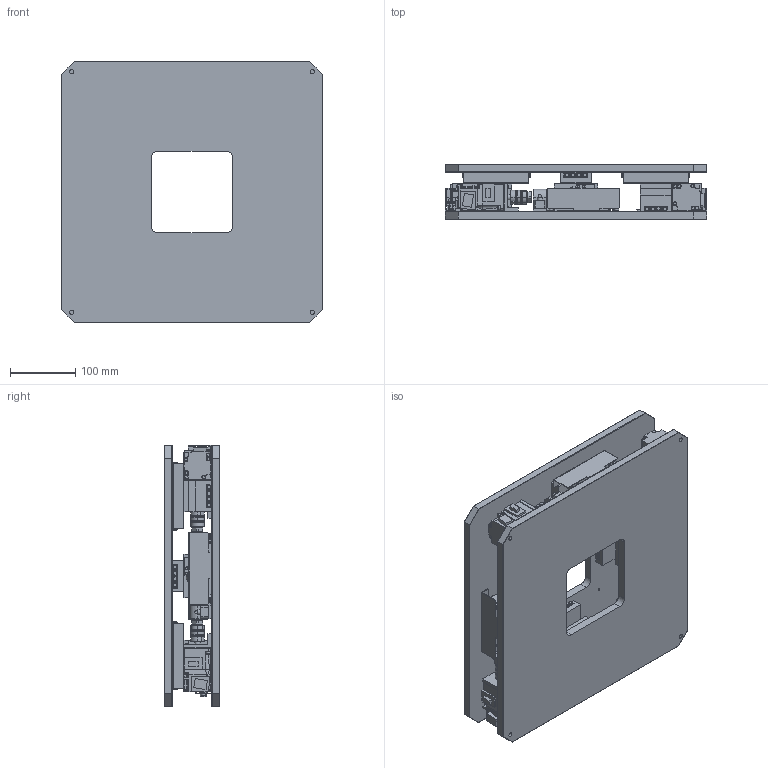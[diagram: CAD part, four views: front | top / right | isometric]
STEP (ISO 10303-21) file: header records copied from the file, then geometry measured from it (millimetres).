
FILE_DESCRIPTION (( 'STEP AP203' ), '1' );
FILE_NAME ('NAF3D-40K02S.STEP', '2023-09-15T03:10:31', ( '' ), ( '' ), 'SwSTEP 2.0', 'SolidWorks 2023', '' );
FILE_SCHEMA (( 'CONFIG_CONTROL_DESIGN' ));
Products named in the file (1): NAF3D-40K02S
Bounding box: 400 x 84.48 x 400 mm (x, y, z)
Volume: 5050958.5 mm3; surface area: 969190.2 mm2
Topology: 1 solids, 1 shells, 3907 faces, 9651 edges, 5944 vertices
Faces by surface type: plane 2377, cylinder 929, cone 553, bspline 48
Entity records: 117592 total; most frequent: CARTESIAN_POINT 23661, DIRECTION 19729, ORIENTED_EDGE 19302, EDGE_CURVE 9651, AXIS2_PLACEMENT_3D 6614, VECTOR 6501, LINE 6501, VERTEX_POINT 5944
